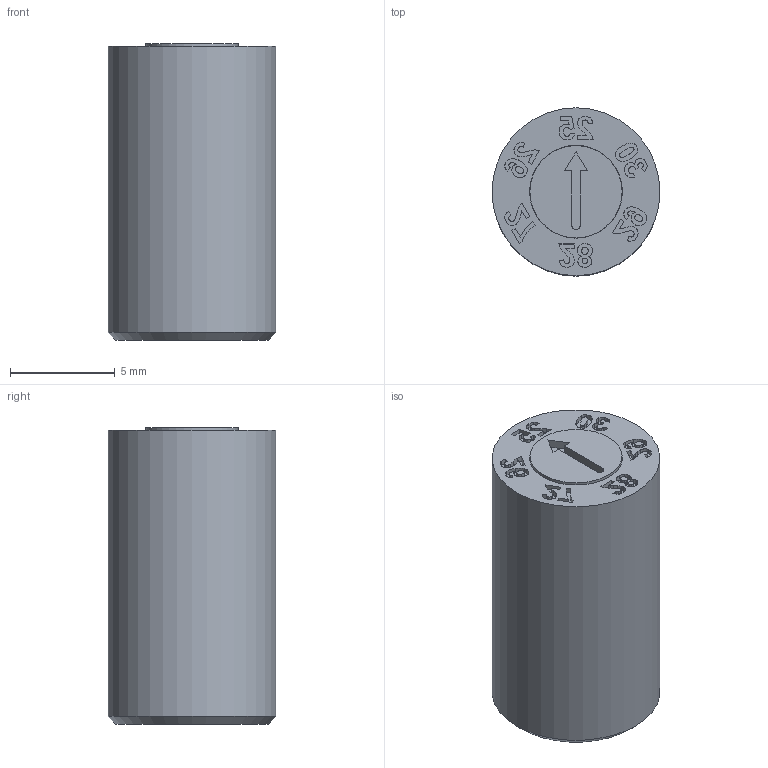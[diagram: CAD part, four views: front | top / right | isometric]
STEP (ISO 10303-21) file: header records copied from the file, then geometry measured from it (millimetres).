
FILE_DESCRIPTION(/* description */ (''),/* implementation_level */ '2;1');
FILE_NAME(/* name */ 'IMC-D1400-Y8-0.step',/* time_stamp */ '2025-05-05T13:12:17+02:00',/* author */ (''),/* organization */ (''),/* preprocessor_version */ 'ST-DEVELOPER v20.1',/* originating_system */ 'Autodesk Translation Framework v14.4.0.0',/* authorisation */ '');
FILE_SCHEMA (('AUTOMOTIVE_DESIGN { 1 0 10303 214 3 1 1 }'));
Length unit declared in the file: millimetre
Products named in the file (1): D1400-Y8-0
Bounding box: 8 x 8 x 14.12 mm (x, y, z)
Volume: 672.5 mm3; surface area: 526 mm2
Topology: 1 solids, 1 shells, 300 faces, 832 edges, 554 vertices
Faces by surface type: bspline 227, plane 65, cylinder 5, cone 3
Full cylindrical faces by diameter (mm): 3.332 x1, 4.4 x1, 4.42 x1, 8 x1
Entity records: 11691 total; most frequent: CARTESIAN_POINT 5545, ORIENTED_EDGE 1662, EDGE_CURVE 831, VERTEX_POINT 554, DIRECTION 538, B_SPLINE_CURVE_WITH_KNOTS 454, LINE 364, VECTOR 364
